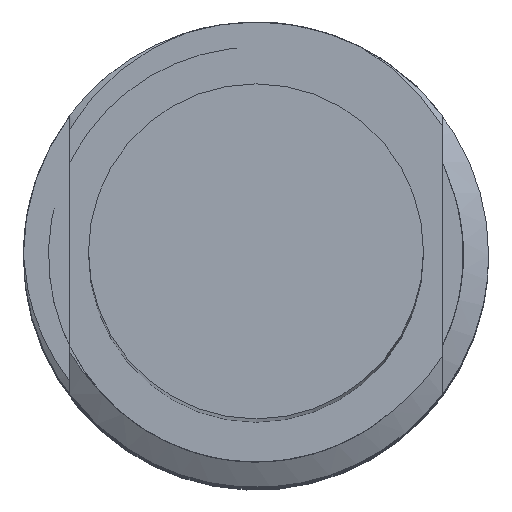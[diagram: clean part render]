
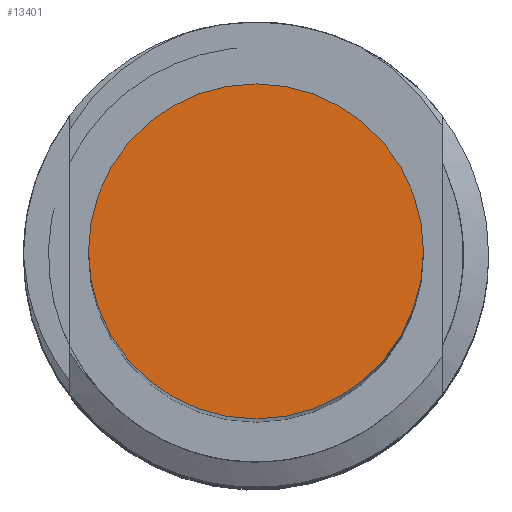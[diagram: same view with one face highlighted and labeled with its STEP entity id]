
A CAD part, top view. The second image highlights one B-rep face of the part: STEP entity #13401.
In plain terms, the highlighted planar face has unit normal (0, 0, 1).
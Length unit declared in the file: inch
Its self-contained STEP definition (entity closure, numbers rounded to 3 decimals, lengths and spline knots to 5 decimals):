
#10459 = DIRECTION ( 'NONE',  ( 1., 0., 0. ) ) ;
#10460 = DIRECTION ( 'NONE',  ( 0., 0., 1. ) ) ;
#10461 = AXIS2_PLACEMENT_3D ( 'NONE', #10462, #10460, #10459 ) ;
#10462 = CARTESIAN_POINT ( 'NONE',  ( 0., 0., 1.92 ) ) ;
#10463 = PLANE ( 'NONE',  #10461 ) ;
#10464 = FACE_OUTER_BOUND ( 'NONE', #13402, .T. ) ;
#10465 = DIRECTION ( 'NONE',  ( 1., 0., 0. ) ) ;
#10466 = DIRECTION ( 'NONE',  ( 0., 0., 1. ) ) ;
#10467 = CARTESIAN_POINT ( 'NONE',  ( 0., 0., 1.92 ) ) ;
#10479 = AXIS2_PLACEMENT_3D ( 'NONE', #10467, #10466, #10465 ) ;
#10480 = CIRCLE ( 'NONE', #10479, 0.09 ) ;
#10685 = CARTESIAN_POINT ( 'NONE',  ( -0.09, 0., 1.92 ) ) ;
#10694 = CARTESIAN_POINT ( 'NONE',  ( 0.09, 0., 1.92 ) ) ;
#10701 = DIRECTION ( 'NONE',  ( 1., 0., 0. ) ) ;
#10714 = DIRECTION ( 'NONE',  ( 0., 0., 1. ) ) ;
#10715 = AXIS2_PLACEMENT_3D ( 'NONE', #10718, #10714, #10701 ) ;
#10716 = CIRCLE ( 'NONE', #10715, 0.09 ) ;
#10718 = CARTESIAN_POINT ( 'NONE',  ( 0., 0., 1.92 ) ) ;
#13398 = EDGE_CURVE ( 'NONE', #18922, #17994, #10480, .T. ) ;
#13401 = ADVANCED_FACE ( 'NONE', ( #10464 ), #10463, .T. ) ;
#13402 = EDGE_LOOP ( 'NONE', ( #13403, #13405 ) ) ;
#13403 = ORIENTED_EDGE ( 'NONE', *, *, #13398, .T. ) ;
#13405 = ORIENTED_EDGE ( 'NONE', *, *, #19356, .T. ) ;
#17994 = VERTEX_POINT ( 'NONE', #10694 ) ;
#18922 = VERTEX_POINT ( 'NONE', #10685 ) ;
#19356 = EDGE_CURVE ( 'NONE', #17994, #18922, #10716, .T. ) ;
